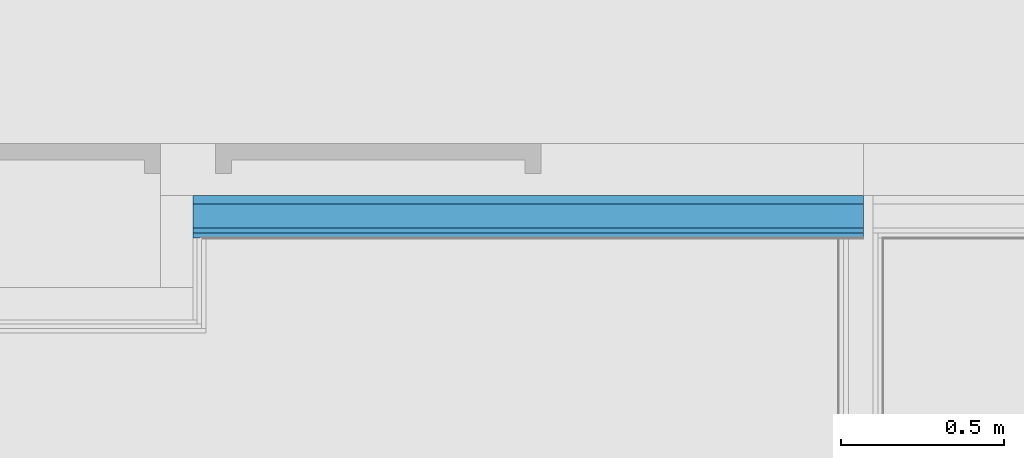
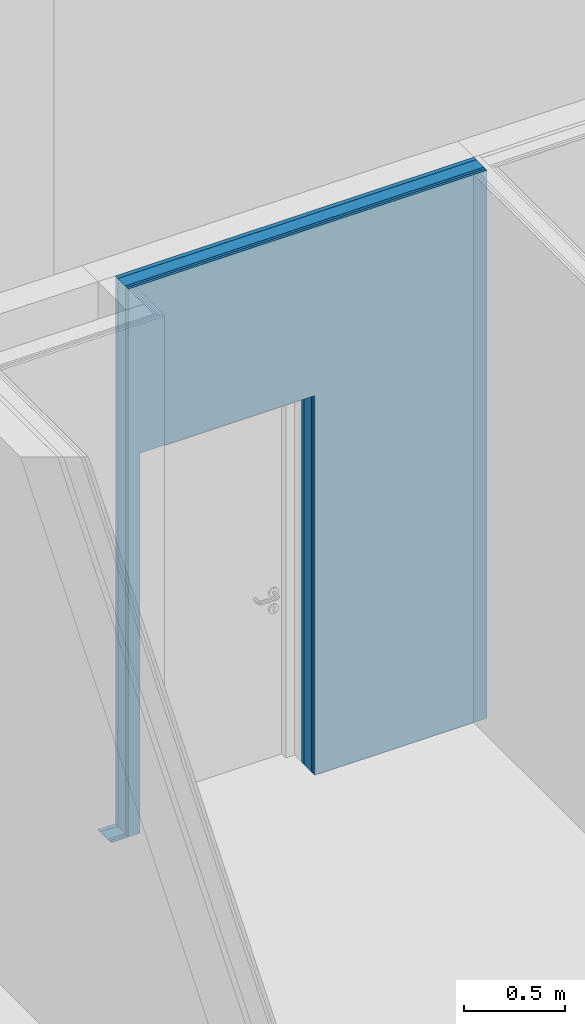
# One storey, part 89 of 139: 4 building element parts, 1 opening, 1 element without a shape of its own.
"""IFC2X3 building model written with IfcOpenShell, lengths in millimetres."""

from ifc_helpers import new_model, entity, si_unit, converted_unit, derived_unit, money_unit, direction, frame, origin_with_axes, place, context, subcontext, project, spatial, faceted_brep, material, type_object, element, aggregate, save


model = new_model("IFC2X3")

# Units and contexts
model_context = context("Model", 3, precision=0.01, world=origin_with_axes(), true_north=direction((0.0, 1.0)))
body_context = subcontext(model_context, "Body", "Model", "MODEL_VIEW")
ifc_project = project(units=[si_unit("LENGTHUNIT", "METRE", prefix="MILLI"), si_unit("AREAUNIT", "SQUARE_METRE"), si_unit("VOLUMEUNIT", "CUBIC_METRE"), converted_unit("PLANEANGLEUNIT", "DEGREE", entity("IfcPlaneAngleMeasure", 0.0174532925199), si_unit("PLANEANGLEUNIT", "RADIAN"), dimensions=[0, 0, 0, 0, 0, 0, 0]), money_unit("EUR"), converted_unit("TIMEUNIT", "Year", entity("IfcTimeMeasure", 31556926.0), si_unit("TIMEUNIT", "SECOND"), dimensions=[0, 0, 1, 0, 0, 0, 0]), si_unit("MASSUNIT", "GRAM", prefix="KILO"), si_unit("THERMODYNAMICTEMPERATUREUNIT", "DEGREE_CELSIUS"), si_unit("LUMINOUSINTENSITYUNIT", "LUMEN"), si_unit("ENERGYUNIT", "JOULE", prefix="MEGA"), derived_unit("THERMALCONDUCTANCEUNIT", [(si_unit("POWERUNIT", "WATT"), 1), (si_unit("LENGTHUNIT", "METRE"), -1), (si_unit("THERMODYNAMICTEMPERATUREUNIT", "KELVIN"), -1)]), derived_unit("SPECIFICHEATCAPACITYUNIT", [(si_unit("ENERGYUNIT", "JOULE"), 1), (si_unit("MASSUNIT", "GRAM", prefix="KILO"), -1), (si_unit("THERMODYNAMICTEMPERATUREUNIT", "KELVIN"), -1)]), derived_unit("MASSDENSITYUNIT", [(si_unit("MASSUNIT", "GRAM", prefix="KILO"), 1), (si_unit("VOLUMEUNIT", "CUBIC_METRE"), -1)])], contexts=[model_context])

# Site, building, storey
site_placement = place(None, origin_with_axes())
site = spatial("IfcSite", under=ifc_project, at=site_placement, Name="Kolde pst 67a", CompositionType="ELEMENT")
building_placement = place(site_placement, origin_with_axes())
building = spatial("IfcBuilding", under=site, at=building_placement, Name="Riigigümnaasium", CompositionType="ELEMENT")
storey_placement = place(building_placement, frame((0.0, 0.0, 4600.0), z_axis=(0.0, 0.0, 1.0), x_axis=(1.0, 0.0, 0.0)))
storey = spatial("IfcBuildingStorey", under=building, at=storey_placement, Name="2. korrus", CompositionType="ELEMENT", Elevation=4600.0)

# Wall, opening, building element parts
wall_type = type_object("IfcWallType", Name="SS-CLT-16/5_vill75+värv 52 dB 292", PredefinedType="NOTDEFINED")
wall_placement = place(storey_placement, frame((25132.0045825, 55889.9872576, -150.0), z_axis=(0.0, 0.0, 1.0), x_axis=(0.99999999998, -6.33002341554e-06, 0.0)))
wall = element("IfcWall", 1, at=wall_placement, inside=storey, type_object=wall_type, Name="Sisesein")
opening_placement = place(wall_placement, frame((667.9776919, 0.0, 150.0), z_axis=(0.0, 0.0, 1.0), x_axis=(1.0, 0.0, 0.0)))
element("IfcOpeningElement", 2, at=opening_placement, cuts=wall, Name="Siseuks", context=body_context, shape_type="Brep", body=[
    faceted_brep([(-500.0, 584.0, 2300.0), (-500.0, 584.0, 0.0), (-500.0, -292.0, 0.0), (-500.0, -292.0, 2300.0), (500.0, 584.0, 2300.0), (500.0, 584.0, 0.0), (500.0, -292.0, 0.0), (500.0, -292.0, 2300.0)], [[[0, 1, 2, 3]], [[0, 4, 5, 1]], [[1, 5, 6, 2]], [[3, 2, 6, 7]], [[4, 0, 3, 7]], [[5, 4, 7, 6]]]),
])
ifc_material_1 = material(Name="_ÕHKVAHE")
building_element_part_1_placement = place(wall_placement, origin_with_axes())
building_element_part_1 = element("IfcBuildingElementPart", 3, at=building_element_part_1_placement, material=ifc_material_1, Name="_ÕHKVAHE", context=body_context, shape_type="Brep", body=[
    faceted_brep([(167.9776919, -160.0, 2450.0), (167.9776919, -160.000000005, 150.0), (167.9776919, -160.000000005, 147.0), (-0.000818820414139, -160.000000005, 147.0), (-0.000835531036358, -160.000000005, 150.0), (99.999164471, -160.0, 150.0), (99.999165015, -160.0, 3470.0), (2156.69134143, -160.0, 3470.0), (2156.69134143, -160.0, 147.0), (1167.9776919, -160.000000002, 147.0), (1167.9776919, -160.000000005, 150.0), (1167.9776919, -160.0, 2450.0), (167.9776919, -185.0, 2450.0), (167.9776919, -185.0, 150.0), (167.9776919, -185.000000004, 147.0), (-0.000663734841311, -185.000000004, 147.0), (-0.00067728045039, -185.000000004, 150.0), (99.9993227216, -185.0, 150.0), (99.9993233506, -185.0, 3470.0), (2156.69134143, -185.0, 3470.0), (2156.69134143, -185.0, 147.0), (1167.9776919, -185.000000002, 147.0), (1167.9776919, -185.0, 150.0), (1167.9776919, -185.0, 2450.0)], [[[0, 1, 2, 3, 4, 5, 6, 7, 8, 9, 10, 11]], [[1, 0, 12, 13]], [[1, 13, 14, 2]], [[14, 15, 3, 2]], [[15, 16, 4, 3]], [[5, 4, 16, 17]], [[6, 5, 17, 18]], [[7, 6, 18, 19]], [[19, 20, 8, 7]], [[9, 8, 20, 21]], [[22, 10, 9, 21]], [[11, 10, 22, 23]], [[0, 11, 23, 12]], [[23, 22, 21, 20, 19, 18, 17, 16, 15, 14, 13, 12]]]),
])
ifc_material_2 = material(Name="_KARKASS - metallkarkass CW 75/50/06 ja UW 75/40/06, samm 600, vahel mineraalvill, helineeldetegur αw = 1.0,  ISOVER ACOUSTIC 75mm või samaväärne")
building_element_part_2_placement = place(wall_placement, origin_with_axes())
building_element_part_2 = element("IfcBuildingElementPart", 4, at=building_element_part_2_placement, material=ifc_material_2, Name="_KARKASS - metallkarkass CW 75/50/06 ja UW 75/40/06, samm 600, vahel mineraalvill, helineeldetegur αw = 1.0,  ISOVER ACOUSTIC 75mm või samaväärne", context=body_context, shape_type="Brep", body=[
    faceted_brep([(167.9776919, -185.0, 2450.0), (167.9776919, -185.000000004, 150.0), (167.9776919, -185.000000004, 147.0), (-0.000663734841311, -185.000000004, 147.0), (-0.00067728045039, -185.000000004, 150.0), (99.9993227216, -185.0, 150.0), (99.9993233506, -185.0, 3470.0), (2156.69134143, -185.0, 3470.0), (2156.69134143, -185.0, 147.0), (1167.9776919, -185.000000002, 147.0), (1167.9776919, -185.000000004, 150.0), (1167.9776919, -185.0, 2450.0), (167.9776919, -260.0, 2450.0), (167.9776919, -260.0, 150.0), (167.9776919, -260.000000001, 147.0), (-0.000198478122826, -260.000000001, 147.0), (-0.000202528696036, -260.000000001, 150.0), (99.9997974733, -260.0, 150.0), (99.9997983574, -260.0, 3470.0), (2156.69134143, -260.0, 3470.0), (2156.69134143, -260.0, 147.0), (1167.9776919, -260.000000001, 147.0), (1167.9776919, -260.0, 150.0), (1167.9776919, -260.0, 2450.0)], [[[0, 1, 2, 3, 4, 5, 6, 7, 8, 9, 10, 11]], [[1, 0, 12, 13]], [[1, 13, 14, 2]], [[14, 15, 3, 2]], [[15, 16, 4, 3]], [[5, 4, 16, 17]], [[6, 5, 17, 18]], [[7, 6, 18, 19]], [[19, 20, 8, 7]], [[9, 8, 20, 21]], [[22, 10, 9, 21]], [[11, 10, 22, 23]], [[0, 11, 23, 12]], [[23, 22, 21, 20, 19, 18, 17, 16, 15, 14, 13, 12]]]),
])
ifc_material_3 = material(Name="_PLAATMATERJAL - tuletõkkekipsplaat, Knauf Red GKF või samaväärne")
building_element_part_3_placement = place(wall_placement, origin_with_axes())
building_element_part_3 = element("IfcBuildingElementPart", 5, at=building_element_part_3_placement, material=ifc_material_3, Name="_PLAATMATERJAL - tuletõkkekipsplaat, Knauf Red GKF või samaväärne", context=body_context, shape_type="Brep", body=[
    faceted_brep([(167.9776919, -260.0, 2450.0), (167.9776919, -260.000000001, 150.0), (167.9776919, -260.000000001, 147.0), (-0.000198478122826, -260.000000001, 147.0), (-0.000202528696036, -260.000000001, 150.0), (99.9997974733, -260.0, 150.0), (99.9997983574, -260.0, 3470.0), (2156.69134143, -260.0, 3470.0), (2156.69134143, -260.0, 147.0), (1167.9776919, -260.000000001, 147.0), (1167.9776919, -260.000000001, 150.0), (1167.9776919, -260.0, 2450.0), (167.9776919, -275.0, 2450.0), (167.9776919, -275.0, 150.0), (167.9776919, -275.000000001, 147.0), (-0.000105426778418, -275.000000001, 147.0), (-0.000107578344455, -275.000000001, 150.0), (99.9998924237, -275.0, 150.0), (99.9998933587, -275.0, 3470.0), (2156.69134143, -275.0, 3470.0), (2156.69134143, -275.0, 147.0), (1167.9776919, -275.0, 147.0), (1167.9776919, -275.0, 150.0), (1167.9776919, -275.0, 2450.0)], [[[0, 1, 2, 3, 4, 5, 6, 7, 8, 9, 10, 11]], [[1, 0, 12, 13]], [[1, 13, 14, 2]], [[14, 15, 3, 2]], [[15, 16, 4, 3]], [[5, 4, 16, 17]], [[6, 5, 17, 18]], [[7, 6, 18, 19]], [[19, 20, 8, 7]], [[9, 8, 20, 21]], [[22, 10, 9, 21]], [[11, 10, 22, 23]], [[0, 11, 23, 12]], [[23, 22, 21, 20, 19, 18, 17, 16, 15, 14, 13, 12]]]),
])
building_element_part_4_placement = place(wall_placement, origin_with_axes())
building_element_part_4 = element("IfcBuildingElementPart", 6, at=building_element_part_4_placement, material=ifc_material_3, Name="_PLAATMATERJAL - tuletõkkekipsplaat, Knauf Red GKF või samaväärne", context=body_context, shape_type="Brep", body=[
    faceted_brep([(167.9776919, -275.0, 2450.0), (167.9776919, -275.000000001, 150.0), (167.9776919, -275.000000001, 147.0), (-0.000105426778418, -275.000000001, 147.0), (-0.000107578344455, -275.000000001, 150.0), (99.9998924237, -275.0, 150.0), (99.9998933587, -275.0, 3470.0), (2156.69134143, -275.0, 3470.0), (2156.69134143, -275.0, 147.0), (1167.9776919, -275.0, 147.0), (1167.9776919, -275.000000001, 150.0), (1167.9776919, -275.0, 2450.0), (167.9776919, -290.0, 2450.0), (167.9776919, -290.0, 150.0), (167.9776919, -290.0, 147.0), (-1.23754340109e-05, -290.0, 147.0), (-1.26279928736e-05, -290.0, 150.0), (99.999987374, -290.0, 150.0), (99.9999883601, -290.0, 3470.0), (2156.69134143, -290.0, 3470.0), (2156.69134143, -290.0, 147.0), (1167.9776919, -290.0, 147.0), (1167.9776919, -290.0, 150.0), (1167.9776919, -290.0, 2450.0)], [[[0, 1, 2, 3, 4, 5, 6, 7, 8, 9, 10, 11]], [[1, 0, 12, 13]], [[1, 13, 14, 2]], [[14, 15, 3, 2]], [[15, 16, 4, 3]], [[5, 4, 16, 17]], [[6, 5, 17, 18]], [[7, 6, 18, 19]], [[19, 20, 8, 7]], [[9, 8, 20, 21]], [[22, 10, 9, 21]], [[11, 10, 22, 23]], [[0, 11, 23, 12]], [[23, 22, 21, 20, 19, 18, 17, 16, 15, 14, 13, 12]]]),
])
aggregate(wall, [building_element_part_1, building_element_part_2, building_element_part_3, building_element_part_4])

save(model, "model.ifc")
